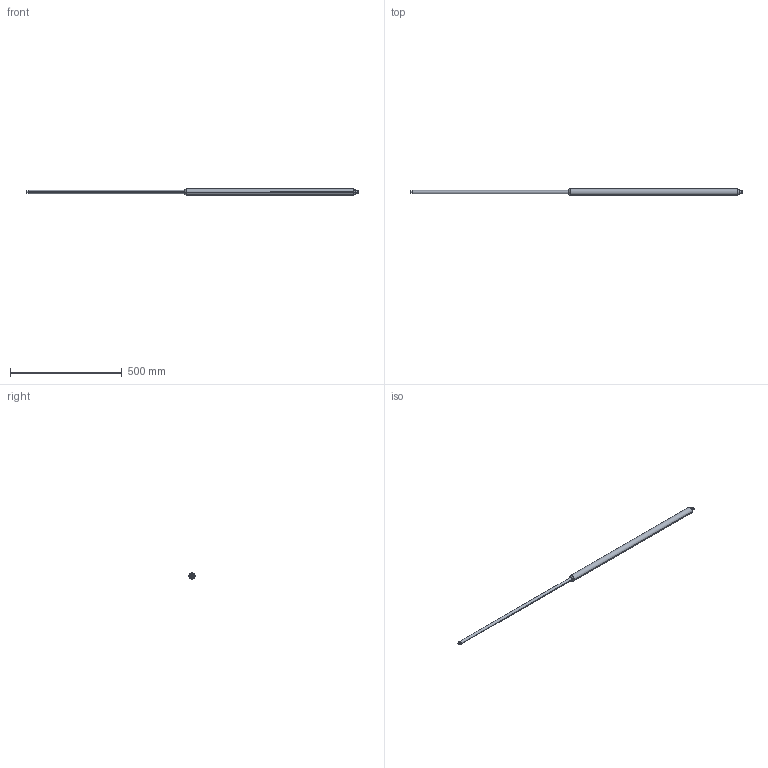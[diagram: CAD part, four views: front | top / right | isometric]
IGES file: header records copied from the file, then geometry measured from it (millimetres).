
Start section: SolidWorks IGES file using analytic representation for surfaces
Global section: file name: Z:\7-3D図面\01.図面\01.L\外形図\Ｇ／Ｓ\20170710(最新)\カタログ用\IGES\FGS-28-700-BB.IGS; native system: SolidWorks 2016; preprocessor: SolidWorks 2016; author: flgijutsu; date: 170710.171921; units: millimetre
Bounding box: 1484 x 28 x 28 mm (x, y, z)
Surface area: 99335 mm2 (no closed solid volume)
Topology: 0 solids, 0 shells, 27 faces, 344 edges, 344 vertices
Faces by surface type: revolution 18, bspline 9
